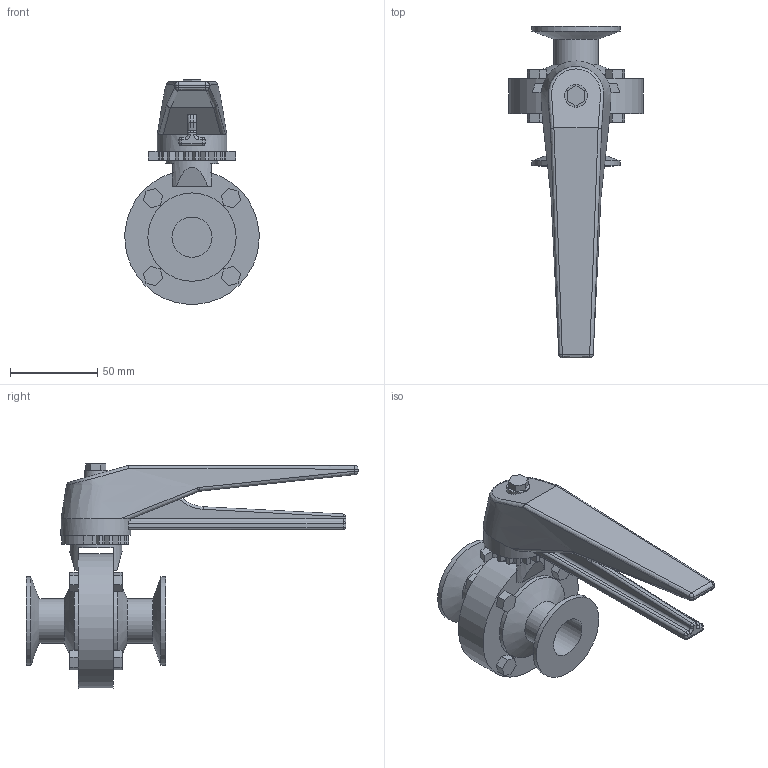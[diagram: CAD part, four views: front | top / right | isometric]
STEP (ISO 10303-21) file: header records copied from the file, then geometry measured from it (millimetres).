
FILE_DESCRIPTION(/* description */ ('ＯＳＵ'),/* implementation_level */ '2;1');
FILE_NAME(/* name */ 'C:\Users\Fujimoto-s\OneDrive\Inventor\WorkSpace\\X2\305D306E4ED6\X0\\ホームページ用\\X2\30C030A630F330ED30FC30C97D206750\X0\\サニタリー継手\RB-MS-1.0S-316L-EPDM\RB-MS-1.0S-316L-EPDM.stp',/* time_stamp */ '2024-08-09T10:47:26+09:00',/* author */ ('Fujimoto-s'),/* organization */ (''),/* preprocessor_version */ 'ST-DEVELOPER v15.2',/* originating_system */ 'Autodesk Inventor 2014',/* authorisation */ '');
FILE_SCHEMA (('AUTOMOTIVE_DESIGN { 1 0 10303 214 3 1 1 }'));
Length unit declared in the file: millimetre
Products named in the file (1): RB-MS-1.0S-316L-EPDM
Bounding box: 76.82 x 190 x 128.36 mm (x, y, z)
Volume: 244748.4 mm3; surface area: 53711.4 mm2
Topology: 1 solids, 1 shells, 201 faces, 506 edges, 314 vertices
Faces by surface type: plane 127, cylinder 41, bspline 15, sphere 10, cone 4, torus 4
Full cylindrical faces by diameter (mm): 13 x1, 23 x2, 25.4 x2, 30 x1, 40 x1, 50.5 x4, 77 x1
Entity records: 6700 total; most frequent: CARTESIAN_POINT 1793, ORIENTED_EDGE 962, DIRECTION 930, EDGE_CURVE 481, LINE 322, VECTOR 322, VERTEX_POINT 311, AXIS2_PLACEMENT_3D 304
